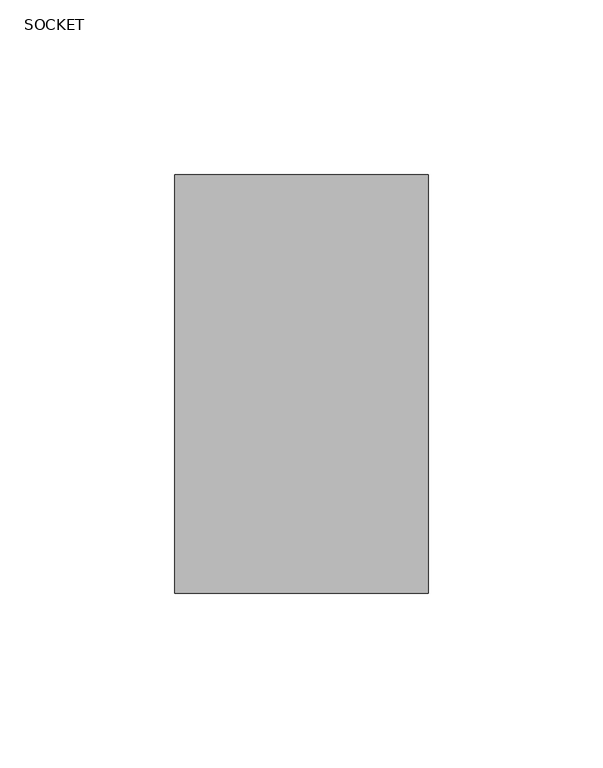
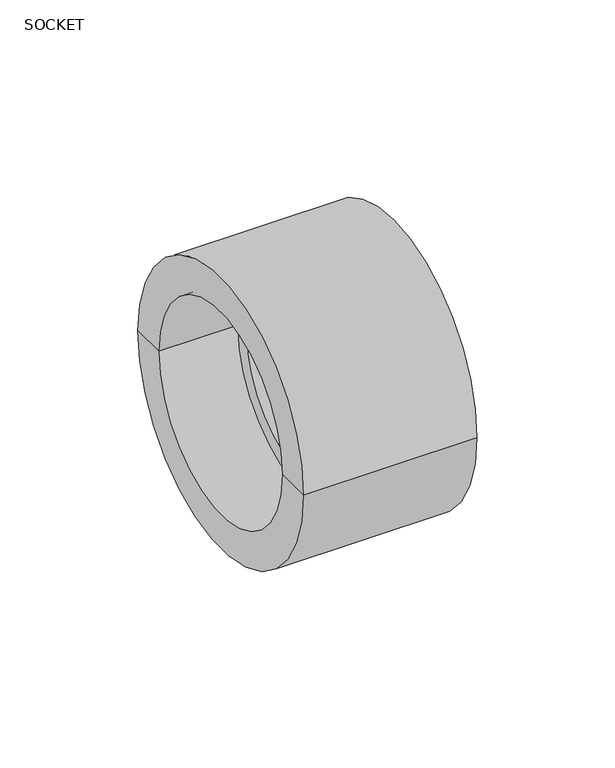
"""IFC4 building model written with IfcOpenShell, lengths in millimetres: pipe fitting geometry, Aquatherm - Coupling Socket : SOCKET."""

from ifc_helpers import new_model, si_unit, frame, origin, place, context, project, spatial, polyline, circle_curve, source, transform, mapped, element, save
from ifc_brep_helpers import plane_surface, cylinder_surface, revolved_surface, advanced_brep


def socket_8da357e2(model_context):
    return source(origin(), model_context, "Body", "AdvancedBrep", [
        advanced_brep(
        [(-36.322, -44.958, 0.0), (-36.322, 44.958, 0.0), (-36.322, 59.944, 0.0), (-36.322, -59.944, 0.0), (-3.302, -44.958, 0.0), (-3.302, 44.958, 0.0), (-3.302, -38.354, 0.0), (-3.302, 38.354, 0.0), (3.302, -38.354, 0.0), (3.302, 38.354, 0.0), (3.302, -44.958, 0.0), (3.302, 44.958, 0.0), (36.322, -44.958, 0.0), (36.322, 44.958, 0.0), (36.322, -59.944, 0.0), (36.322, 59.944, 0.0)],
        [
            (0, 1, circle_curve(frame((-36.322, 0.0, 0.0), z_axis=(1.0, 0.0, 0.0), x_axis=(0.0, 1.0, 0.0)), 44.958)),
            (1, 2),
            (2, 3, circle_curve(frame((-36.322, 0.0, 0.0), z_axis=(-1.0, 0.0, 0.0), x_axis=(0.0, 1.0, 0.0)), 59.944)),
            (3, 0),
            (1, 0, circle_curve(frame((-36.322, 0.0, 0.0), z_axis=(1.0, 0.0, 0.0), x_axis=(0.0, 1.0, 0.0)), 44.958)),
            (3, 2, circle_curve(frame((-36.322, 0.0, 0.0), z_axis=(-1.0, 0.0, 0.0), x_axis=(0.0, 1.0, 0.0)), 59.944)),
            (4, 5, circle_curve(frame((-3.302, 0.0, 0.0), z_axis=(1.0, 0.0, 0.0), x_axis=(0.0, 1.0, 0.0)), 44.958)),
            (5, 1),
            (0, 4),
            (5, 4, circle_curve(frame((-3.302, 0.0, 0.0), z_axis=(1.0, 0.0, 0.0), x_axis=(0.0, 1.0, 0.0)), 44.958)),
            (6, 7, circle_curve(frame((-3.302, 0.0, 0.0), z_axis=(1.0, 0.0, 0.0), x_axis=(0.0, 1.0, 0.0)), 38.354)),
            (7, 5),
            (4, 6),
            (7, 6, circle_curve(frame((-3.302, 0.0, 0.0), z_axis=(1.0, 0.0, 0.0), x_axis=(0.0, 1.0, 0.0)), 38.354)),
            (8, 9, circle_curve(frame((3.302, 0.0, 0.0), z_axis=(1.0, 0.0, 0.0), x_axis=(0.0, 1.0, 0.0)), 38.354)),
            (9, 7),
            (6, 8),
            (9, 8, circle_curve(frame((3.302, 0.0, 0.0), z_axis=(1.0, 0.0, 0.0), x_axis=(0.0, 1.0, 0.0)), 38.354)),
            (10, 11, circle_curve(frame((3.302, 0.0, 0.0), z_axis=(1.0, 0.0, 0.0), x_axis=(0.0, 1.0, 0.0)), 44.958)),
            (11, 9),
            (8, 10),
            (11, 10, circle_curve(frame((3.302, 0.0, 0.0), z_axis=(1.0, 0.0, 0.0), x_axis=(0.0, 1.0, 0.0)), 44.958)),
            (12, 13, circle_curve(frame((36.322, 0.0, 0.0), z_axis=(1.0, 0.0, 0.0), x_axis=(0.0, 1.0, 0.0)), 44.958)),
            (13, 11),
            (10, 12),
            (13, 12, circle_curve(frame((36.322, 0.0, 0.0), z_axis=(1.0, 0.0, 0.0), x_axis=(0.0, 1.0, 0.0)), 44.958)),
            (14, 15, circle_curve(frame((36.322, 0.0, 0.0), z_axis=(1.0, 0.0, 0.0), x_axis=(0.0, 1.0, 0.0)), 59.944)),
            (15, 13),
            (12, 14),
            (15, 14, circle_curve(frame((36.322, 0.0, 0.0), z_axis=(1.0, 0.0, 0.0), x_axis=(0.0, 1.0, 0.0)), 59.944)),
            (2, 15),
            (14, 3),
        ],
        [
            plane_surface(frame((-36.322, 0.0, 0.0), z_axis=(-1.0, 0.0, 0.0), x_axis=(0.0, 1.0, 0.0))),
            revolved_surface(polyline([(-36.322, 44.958, 0.0), (-3.3019999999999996, 44.958, 0.0)]), (-52.6204022, 0.0, 0.0), (-1.0, 0.0, 0.0)),
            plane_surface(frame((-3.302, 0.0, 0.0), z_axis=(-1.0, 0.0, 0.0), x_axis=(0.0, 1.0, 0.0))),
            revolved_surface(polyline([(-3.3019999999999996, 38.354, 0.0), (3.3019999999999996, 38.354, 0.0)]), (-52.6204022, 0.0, 0.0), (-1.0, 0.0, 0.0)),
            plane_surface(frame((3.302, 0.0, 0.0), z_axis=(1.0, 0.0, 0.0), x_axis=(0.0, 1.0, 0.0))),
            revolved_surface(polyline([(3.3019999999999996, 44.958, 0.0), (36.322, 44.958, 0.0)]), (-52.6204022, 0.0, 0.0), (-1.0, 0.0, 0.0)),
            plane_surface(frame((36.322, 0.0, 0.0), z_axis=(1.0, 0.0, 0.0), x_axis=(0.0, 1.0, 0.0))),
            cylinder_surface(frame((-52.6204022, 0.0, 0.0), z_axis=(-1.0, 0.0, 0.0), x_axis=(0.0, 1.0, 0.0)), 59.944),
        ],
        [
            (0, [[1, 2, 3, 4]]),
            (0, [[5, -4, 6, -2]]),
            (1, [[7, 8, -1, 9]]),
            (1, [[10, -9, -5, -8]]),
            (2, [[11, 12, -7, 13]]),
            (2, [[14, -13, -10, -12]]),
            (3, [[15, 16, -11, 17]]),
            (3, [[18, -17, -14, -16]]),
            (4, [[19, 20, -15, 21]]),
            (4, [[22, -21, -18, -20]]),
            (5, [[23, 24, -19, 25]]),
            (5, [[26, -25, -22, -24]]),
            (6, [[27, 28, -23, 29]]),
            (6, [[30, -29, -26, -28]]),
            (7, [[-3, 31, -27, 32]]),
            (7, [[-6, -32, -30, -31]]),
        ],
    ),
    ])


if __name__ == "__main__":
    model = new_model("IFC4")
    model_context = context("Model", 3, world=origin())
    ifc_project = project(units=[si_unit("LENGTHUNIT", "METRE", prefix="MILLI")], contexts=[model_context])
    site = spatial("IfcSite", under=ifc_project)
    building = spatial("IfcBuilding", under=site)
    placement = place(None, origin())
    ifc_socket_shape = socket_8da357e2(model_context)
    element("IfcPipeFitting", 1, ObjectType="Aquatherm - Coupling Socket : SOCKET", at=placement, inside=building, context=model_context, shape_type="MappedRepresentation", body=[
        mapped(ifc_socket_shape, transform((0.0, 0.0, 0.0), x_axis=(1.0, 0.0, 0.0), y_axis=(0.0, 1.0, 0.0), z_axis=(0.0, 0.0, 1.0))),
    ])
    save(model, "model.ifc")
